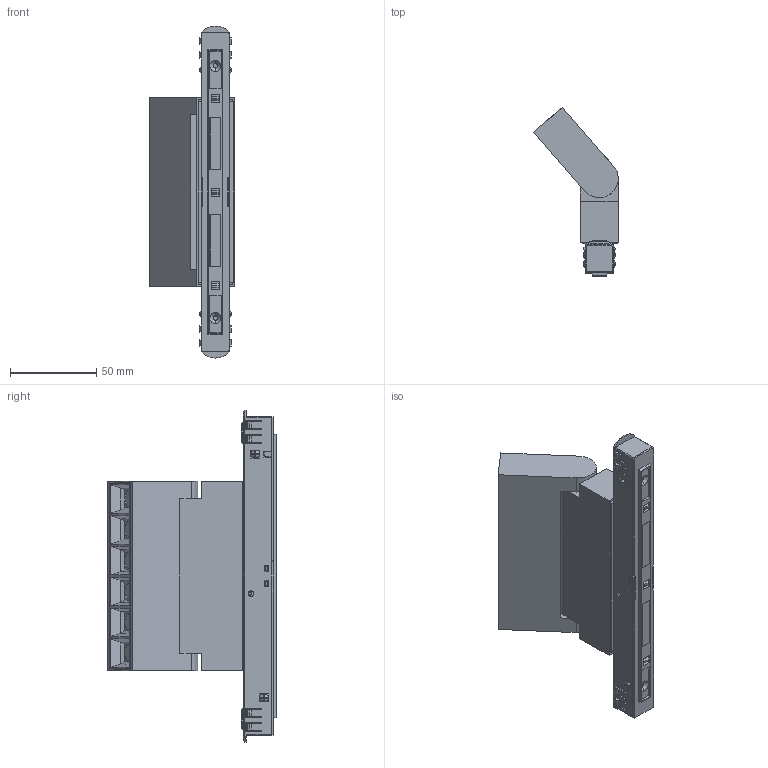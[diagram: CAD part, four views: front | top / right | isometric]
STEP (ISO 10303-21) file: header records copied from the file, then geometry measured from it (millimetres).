
FILE_DESCRIPTION (( 'STEP AP203' ), '1' );
FILE_NAME ('410213.STEP', '2025-04-02T03:02:32', ( '微软用户' ), ( '微软中国' ), 'SwSTEP 2.0', 'SolidWorks 2020', '' );
FILE_SCHEMA (( 'CONFIG_CONTROL_DESIGN' ));
Length unit declared in the file: millimetre
Products named in the file (18): ZUJIAN_TOUJING_6_ASM; MANIFOLD_SOLID_BREP_1155; MANIFOLD_SOLID_BREP_1145; MANIFOLD_SOLID_BREP_1156; ZHIJIA_DUANKUAN_SHANGGAI; MANIFOLD_SOLID_BREP_1146; 10-07-WJ1; ZHIJIA_DUANKUAN; MANIFOLD_SOLID_BREP_1147; 10-08-G1_1; ZHIJIA_0_105MM; MANIFOLD_SOLID_BREP_1148; 10-10-gk-2; MANIFOLD_SOLID_BREP_5198; MANIFOLD_SOLID_BREP_1149; 410213; MANIFOLD_SOLID_BREP_5197; MANIFOLD_SOLID_BREP_1150
Assembly tree (17 placements, depth 3):
  410213
    ZHIJIA_DUANKUAN_SHANGGAI
    ZHIJIA_DUANKUAN
    ZHIJIA_0_105MM
    ZUJIAN_TOUJING_6_ASM
      MANIFOLD_SOLID_BREP_5198
      MANIFOLD_SOLID_BREP_5197
    10-10-gk-2
      MANIFOLD_SOLID_BREP_1145
      MANIFOLD_SOLID_BREP_1146
      MANIFOLD_SOLID_BREP_1147
      MANIFOLD_SOLID_BREP_1148
      MANIFOLD_SOLID_BREP_1149
      MANIFOLD_SOLID_BREP_1150
      MANIFOLD_SOLID_BREP_1155
      MANIFOLD_SOLID_BREP_1156
      10-07-WJ1
      10-08-G1_1
Bounding box: 49.09 x 98.18 x 192.8 mm (x, y, z)
Volume: 108849.5 mm3; surface area: 105581.9 mm2
Topology: 19 solids, 19 shells, 1842 faces, 5014 edges, 3248 vertices
Faces by surface type: plane 1283, cylinder 321, cone 127, bspline 111
Entity records: 73725 total; most frequent: CARTESIAN_POINT 27342, ORIENTED_EDGE 10028, DIRECTION 7886, EDGE_CURVE 5014, VECTOR 3502, LINE 3502, VERTEX_POINT 3248, AXIS2_PLACEMENT_3D 2192
